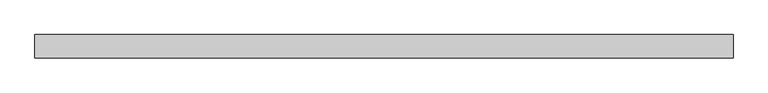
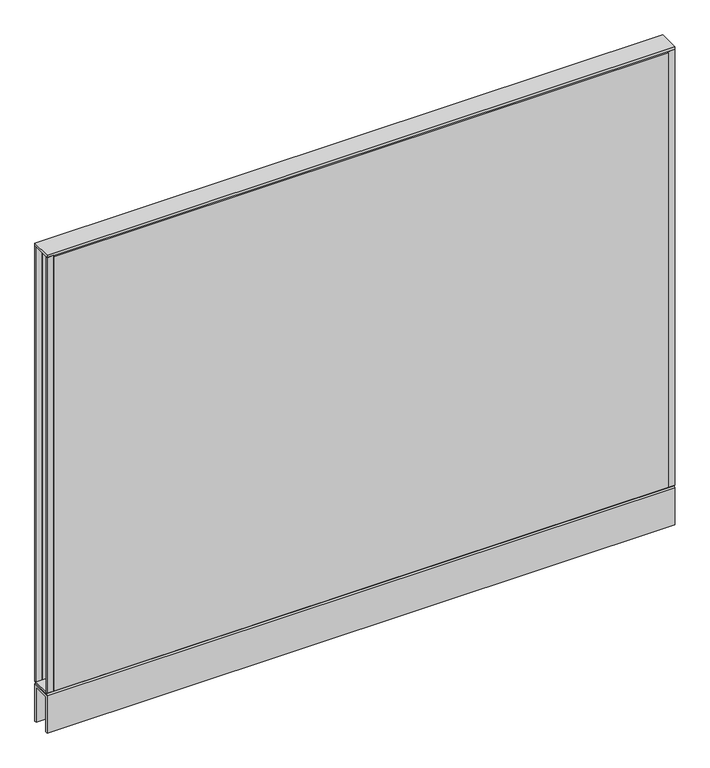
"""IFC4 building model written with IfcOpenShell, lengths in millimetres: furniture geometry, Steelcase - Kick Solutions - Panel - Monolithic - Tackable Acoustical : 48H x 60W."""

from ifc_helpers import new_model, si_unit, frame, origin, place, context, project, spatial, polyline, outline, extrude, source, transform, mapped, element, save


def furniture_ab2bff4a(model_context):
    return source(origin(), model_context, "Body", "SweptSolid", [
        extrude(outline(polyline([(0.0, 101.7169049), (-3.1750015, 101.7169049), (-3.1750015, 1219.3169018), (0.0, 1216.2357466), (0.0, 101.7169049)])), frame((15.8749996, 0.0, 0.0), z_axis=(1.0, 0.0, 0.0), x_axis=(0.0, 1.0, 0.0)), (0.0, 0.0, 1.0), 1492.2500008),
        extrude(outline(polyline([(-50.8000015, 101.7169049), (-50.8000015, 1216.2357466), (-47.625, 1219.3169018), (-47.625, 101.7169049), (-50.8000015, 101.7169049)])), frame((15.8749996, 0.0, 0.0), z_axis=(1.0, 0.0, 0.0), x_axis=(0.0, 1.0, 0.0)), (0.0, 0.0, 1.0), 1492.2500008),
        extrude(outline(polyline([(1524.0, -3.1750015), (1508.1250004, -3.1750015), (1508.1250004, 0.0), (1524.0, 0.0), (1524.0, -3.1750015)])), frame((0.0, 0.0, 101.7169049), z_axis=(0.0, 0.0, 1.0), x_axis=(1.0, 0.0, 0.0)), (0.0, 0.0, 1.0), 1117.599997),
        extrude(outline(polyline([(15.8749996, -50.8000015), (0.0, -50.8000015), (0.0, -47.625), (15.8749996, -47.625), (15.8749996, -50.8000015)])), frame((0.0, 0.0, 101.7169049), z_axis=(0.0, 0.0, 1.0), x_axis=(1.0, 0.0, 0.0)), (0.0, 0.0, 1.0), 1117.599997),
        extrude(outline(polyline([(-50.7995075, 101.7169049), (-0.000494, 101.7169049), (-3.0583512, 98.5421458), (-47.7416503, 98.5421458), (-50.7995075, 101.7169049)])), frame((0.0, 0.0, 0.0), z_axis=(1.0, 0.0, 0.0), x_axis=(0.0, 1.0, 0.0)), (0.0, 0.0, 1.0), 1524.0),
        extrude(outline(polyline([(1524.0, 0.0), (1524.0, -50.8000015), (0.0, -50.8000015), (0.0, 0.0), (1524.0, 0.0)])), frame((0.0, 0.0, 1219.3169018), z_axis=(0.0, 0.0, 1.0), x_axis=(1.0, 0.0, 0.0)), (0.0, 0.0, 1.0), 6.35),
        extrude(outline(polyline([(15.8749996, -3.1750015), (0.0, -3.1750015), (0.0, 0.0), (15.8749996, 0.0), (15.8749996, -3.1750015)])), frame((0.0, 0.0, 101.7169049), z_axis=(0.0, 0.0, 1.0), x_axis=(1.0, 0.0, 0.0)), (0.0, 0.0, 1.0), 1117.599997),
        extrude(outline(polyline([(1524.0, -50.8000015), (1508.1250004, -50.8000015), (1508.1250004, -47.625), (1524.0, -47.625), (1524.0, -50.8000015)])), frame((0.0, 0.0, 101.7169049), z_axis=(0.0, 0.0, 1.0), x_axis=(1.0, 0.0, 0.0)), (0.0, 0.0, 1.0), 1117.599997),
        extrude(outline(polyline([(-50.8000015, 95.3668927), (-47.6247484, 98.5421458), (-3.1752531, 98.5421458), (0.0, 95.3668927), (-50.8000015, 95.3668927)])), frame((0.0, 0.0, 0.0), z_axis=(1.0, 0.0, 0.0), x_axis=(0.0, 1.0, 0.0)), (0.0, 0.0, 1.0), 1524.0),
        extrude(outline(polyline([(0.0, 0.0), (-5.08, 0.0), (-5.08, 90.2869018), (-45.7200015, 90.2869018), (-45.7200015, 0.0), (-50.8000015, 0.0), (-50.8000015, 95.3669018), (0.0, 95.3669018), (0.0, 0.0)])), frame((0.0, 0.0, 0.0), z_axis=(1.0, 0.0, 0.0), x_axis=(0.0, 1.0, 0.0)), (0.0, 0.0, 1.0), 1524.0),
    ])


if __name__ == "__main__":
    model = new_model("IFC4")
    model_context = context("Model", 3, world=origin())
    ifc_project = project(units=[si_unit("LENGTHUNIT", "METRE", prefix="MILLI")], contexts=[model_context])
    site = spatial("IfcSite", under=ifc_project)
    building = spatial("IfcBuilding", under=site)
    placement = place(None, origin())
    furniture_shape = furniture_ab2bff4a(model_context)
    element("IfcFurniture", 1, ObjectType="Steelcase - Kick Solutions - Panel - Monolithic - Tackable Acoustical : 48H x 60W", at=placement, inside=building, context=model_context, shape_type="MappedRepresentation", body=[
        mapped(furniture_shape, transform((0.0, 0.0, 0.0), x_axis=(1.0, 0.0, 0.0), y_axis=(0.0, 1.0, 0.0), z_axis=(0.0, 0.0, 1.0))),
    ])
    save(model, "model.ifc")
